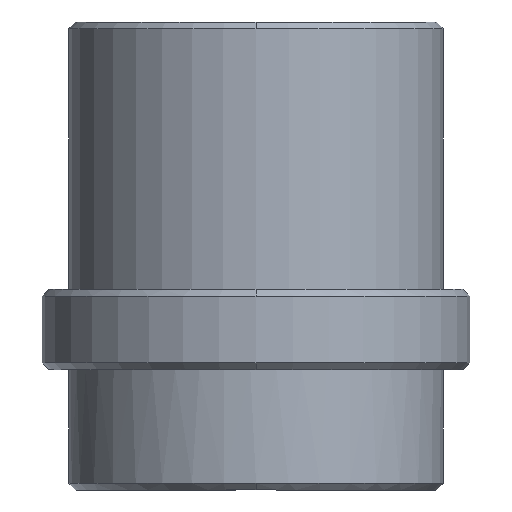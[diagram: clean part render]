
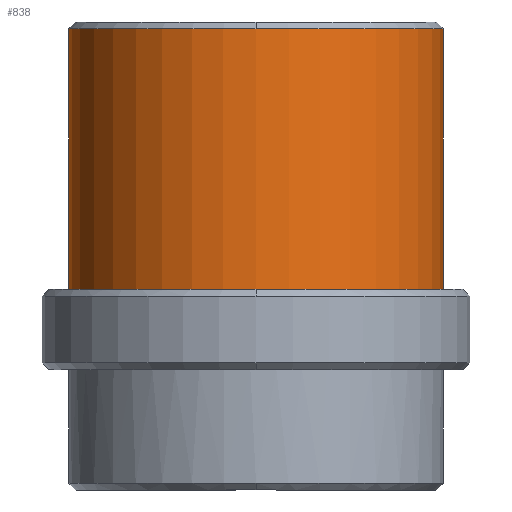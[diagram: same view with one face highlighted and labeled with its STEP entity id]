
A CAD part, front view. The second image highlights one B-rep face of the part: STEP entity #838.
In plain terms, the highlighted cylindrical face has radius 14 mm (diameter 28 mm), a partial arc.
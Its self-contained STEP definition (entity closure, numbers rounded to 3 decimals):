
#591=CARTESIAN_POINT('Vertex',(0.,-14.,25.5)) ;
#607=CARTESIAN_POINT('Vertex',(-14.,0.,25.5)) ;
#610=CARTESIAN_POINT('Axis2P3D Location',(0.,0.,25.5)) ;
#627=CARTESIAN_POINT('Axis2P3D Location',(0.,0.,25.5)) ;
#631=CARTESIAN_POINT('Vertex',(14.,0.,25.5)) ;
#807=CARTESIAN_POINT('Axis2P3D Location',(0.,0.,-10.75)) ;
#812=CARTESIAN_POINT('Line Origine',(-14.,0.,-10.75)) ;
#816=CARTESIAN_POINT('Vertex',(-14.,0.,6.)) ;
#819=CARTESIAN_POINT('Axis2P3D Location',(0.,0.,6.)) ;
#823=CARTESIAN_POINT('Vertex',(14.,0.,6.)) ;
#826=CARTESIAN_POINT('Line Origine',(14.,0.,-10.75)) ;
#611=DIRECTION('Axis2P3D Direction',(0.,0.,-1.)) ;
#628=DIRECTION('Axis2P3D Direction',(0.,0.,-1.)) ;
#808=DIRECTION('Axis2P3D Direction',(0.,0.,1.)) ;
#809=DIRECTION('Axis2P3D XDirection',(-1.,0.,0.)) ;
#813=DIRECTION('Vector Direction',(0.,0.,1.)) ;
#820=DIRECTION('Axis2P3D Direction',(0.,0.,1.)) ;
#827=DIRECTION('Vector Direction',(0.,0.,1.)) ;
#612=AXIS2_PLACEMENT_3D('Circle Axis2P3D',#610,#611,$) ;
#629=AXIS2_PLACEMENT_3D('Circle Axis2P3D',#627,#628,$) ;
#810=AXIS2_PLACEMENT_3D('Cylinder Axis2P3D',#807,#808,#809) ;
#821=AXIS2_PLACEMENT_3D('Circle Axis2P3D',#819,#820,$) ;
#832=ORIENTED_EDGE('',*,*,#818,.T.) ;
#833=ORIENTED_EDGE('',*,*,#825,.F.) ;
#834=ORIENTED_EDGE('',*,*,#830,.F.) ;
#835=ORIENTED_EDGE('',*,*,#633,.T.) ;
#836=ORIENTED_EDGE('',*,*,#614,.T.) ;
#814=VECTOR('Line Direction',#813,1.) ;
#828=VECTOR('Line Direction',#827,1.) ;
#838=ADVANCED_FACE('MANIFOLD_SOLID_BREP #2006',(#837),#811,.T.) ;
#613=CIRCLE('generated circle',#612,14.) ;
#630=CIRCLE('generated circle',#629,14.) ;
#822=CIRCLE('generated circle',#821,14.) ;
#811=CYLINDRICAL_SURFACE('generated cylinder',#810,14.) ;
#614=EDGE_CURVE('',#592,#608,#613,.T.) ;
#633=EDGE_CURVE('',#632,#592,#630,.T.) ;
#818=EDGE_CURVE('',#608,#817,#815,.F.) ;
#825=EDGE_CURVE('',#824,#817,#822,.F.) ;
#830=EDGE_CURVE('',#632,#824,#829,.F.) ;
#831=EDGE_LOOP('',(#832,#833,#834,#835,#836)) ;
#837=FACE_OUTER_BOUND('',#831,.T.) ;
#815=LINE('Line',#812,#814) ;
#829=LINE('Line',#826,#828) ;
#592=VERTEX_POINT('',#591) ;
#608=VERTEX_POINT('',#607) ;
#632=VERTEX_POINT('',#631) ;
#817=VERTEX_POINT('',#816) ;
#824=VERTEX_POINT('',#823) ;
